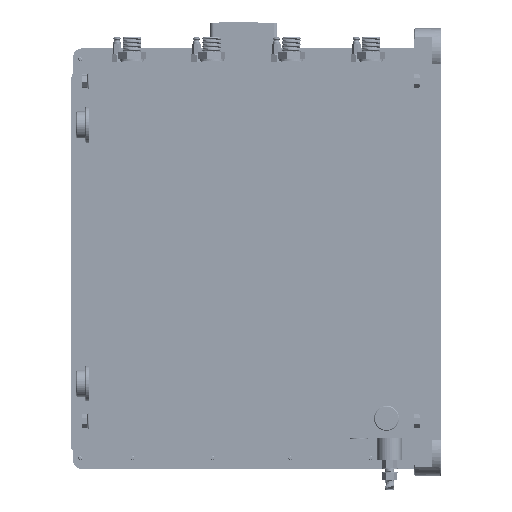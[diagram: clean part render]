
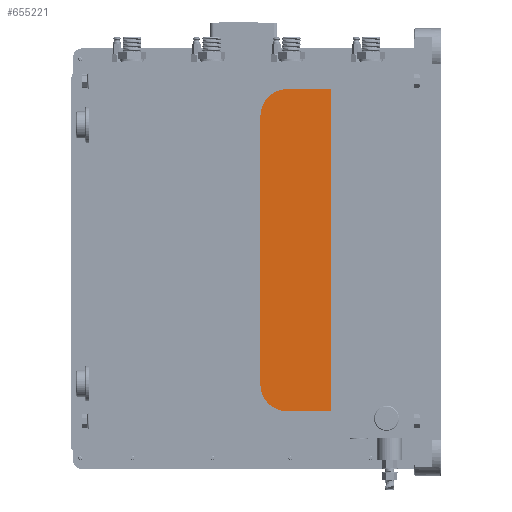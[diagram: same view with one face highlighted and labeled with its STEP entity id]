
A CAD part, left-side view. The second image highlights one B-rep face of the part: STEP entity #655221.
In plain terms, the highlighted planar face has unit normal (-1, 0, 0).
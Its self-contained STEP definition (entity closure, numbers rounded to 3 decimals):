
#11910 = CARTESIAN_POINT ( 'NONE',  ( -435.884, 181.509, 319.628 ) ) ;
#13284 = ORIENTED_EDGE ( 'NONE', *, *, #744334, .F. ) ;
#14060 = CARTESIAN_POINT ( 'NONE',  ( -435.884, 188.138, 331.988 ) ) ;
#17797 = VERTEX_POINT ( 'NONE', #55833 ) ;
#17975 = AXIS2_PLACEMENT_3D ( 'NONE', #628854, #281988, #26964 ) ;
#23563 = ORIENTED_EDGE ( 'NONE', *, *, #723036, .F. ) ;
#26964 = DIRECTION ( 'NONE',  ( 0., 0., -1. ) ) ;
#34613 = CARTESIAN_POINT ( 'NONE',  ( -435.884, 99.138, -68.012 ) ) ;
#52814 = EDGE_LOOP ( 'NONE', ( #13284, #465102 ) ) ;
#53659 = DIRECTION ( 'NONE',  ( 0., 0., -1. ) ) ;
#55833 = CARTESIAN_POINT ( 'NONE',  ( -435.884, 181.319, -62.372 ) ) ;
#71457 = CIRCLE ( 'NONE', #492240, 3.36 ) ;
#77330 = DIRECTION ( 'NONE',  ( 0., 1., 0. ) ) ;
#80146 = CARTESIAN_POINT ( 'NONE',  ( -435.884, 105.768, -59.012 ) ) ;
#82886 = EDGE_CURVE ( 'NONE', #538520, #425532, #653180, .T. ) ;
#83066 = DIRECTION ( 'NONE',  ( 0., 0., -1. ) ) ;
#84347 = CARTESIAN_POINT ( 'NONE',  ( -435.884, 99.138, 331.988 ) ) ;
#86164 = ORIENTED_EDGE ( 'NONE', *, *, #739285, .T. ) ;
#100020 = ORIENTED_EDGE ( 'NONE', *, *, #144486, .T. ) ;
#111624 = EDGE_CURVE ( 'NONE', #163369, #387337, #860310, .T. ) ;
#112736 = FACE_BOUND ( 'NONE', #285420, .T. ) ;
#120124 = AXIS2_PLACEMENT_3D ( 'NONE', #642585, #717223, #255847 ) ;
#134604 = DIRECTION ( 'NONE',  ( -1., 0., 0. ) ) ;
#139663 = CARTESIAN_POINT ( 'NONE',  ( -435.884, 188.138, 331.988 ) ) ;
#143548 = EDGE_LOOP ( 'NONE', ( #746113, #765687 ) ) ;
#144486 = EDGE_CURVE ( 'NONE', #387337, #780871, #759692, .T. ) ;
#158874 = AXIS2_PLACEMENT_3D ( 'NONE', #591661, #134604, #455508 ) ;
#163369 = VERTEX_POINT ( 'NONE', #14060 ) ;
#164994 = EDGE_LOOP ( 'NONE', ( #360058, #772300 ) ) ;
#177866 = CIRCLE ( 'NONE', #387909, 3.36 ) ;
#183416 = CARTESIAN_POINT ( 'NONE',  ( -435.884, 106.138, 326.348 ) ) ;
#184463 = ORIENTED_EDGE ( 'NONE', *, *, #111624, .T. ) ;
#185524 = CARTESIAN_POINT ( 'NONE',  ( -435.884, 181.509, 322.988 ) ) ;
#200758 = VERTEX_POINT ( 'NONE', #462129 ) ;
#243473 = EDGE_CURVE ( 'NONE', #276454, #575001, #677495, .T. ) ;
#248926 = PLANE ( 'NONE',  #832948 ) ;
#255847 = DIRECTION ( 'NONE',  ( 0., 0., -1. ) ) ;
#275685 = AXIS2_PLACEMENT_3D ( 'NONE', #697834, #495849, #83066 ) ;
#276454 = VERTEX_POINT ( 'NONE', #629487 ) ;
#281988 = DIRECTION ( 'NONE',  ( -1., 0., 0. ) ) ;
#284932 = EDGE_CURVE ( 'NONE', #200758, #288844, #691509, .T. ) ;
#285420 = EDGE_LOOP ( 'NONE', ( #388019, #23563 ) ) ;
#285613 = CARTESIAN_POINT ( 'NONE',  ( -435.884, 181.509, 326.348 ) ) ;
#288844 = VERTEX_POINT ( 'NONE', #451028 ) ;
#310446 = DIRECTION ( 'NONE',  ( 0., 0., -1. ) ) ;
#317272 = DIRECTION ( 'NONE',  ( -1., 0., 0. ) ) ;
#327774 = VECTOR ( 'NONE', #341665, 1000. ) ;
#338394 = DIRECTION ( 'NONE',  ( -1., 0., 0. ) ) ;
#341665 = DIRECTION ( 'NONE',  ( 0., 0., -1. ) ) ;
#348060 = DIRECTION ( 'NONE',  ( 0., 0., -1. ) ) ;
#359794 = DIRECTION ( 'NONE',  ( 0., -1., 0. ) ) ;
#360058 = ORIENTED_EDGE ( 'NONE', *, *, #82886, .F. ) ;
#387337 = VERTEX_POINT ( 'NONE', #505456 ) ;
#387909 = AXIS2_PLACEMENT_3D ( 'NONE', #80146, #598852, #348060 ) ;
#388019 = ORIENTED_EDGE ( 'NONE', *, *, #243473, .F. ) ;
#408652 = DIRECTION ( 'NONE',  ( 0., 0., -1. ) ) ;
#425532 = VERTEX_POINT ( 'NONE', #285613 ) ;
#428770 = CARTESIAN_POINT ( 'NONE',  ( -435.884, 181.319, -55.652 ) ) ;
#429970 = CIRCLE ( 'NONE', #275685, 3.36 ) ;
#450985 = FACE_BOUND ( 'NONE', #143548, .T. ) ;
#451028 = CARTESIAN_POINT ( 'NONE',  ( -435.884, 105.768, -62.372 ) ) ;
#453939 = CARTESIAN_POINT ( 'NONE',  ( -435.884, 99.138, 331.988 ) ) ;
#455306 = CARTESIAN_POINT ( 'NONE',  ( -435.884, 588.149, -68.012 ) ) ;
#455508 = DIRECTION ( 'NONE',  ( 0., 0., -1. ) ) ;
#462129 = CARTESIAN_POINT ( 'NONE',  ( -435.884, 105.768, -55.652 ) ) ;
#465102 = ORIENTED_EDGE ( 'NONE', *, *, #284932, .F. ) ;
#466178 = DIRECTION ( 'NONE',  ( -1., 0., 0. ) ) ;
#466828 = AXIS2_PLACEMENT_3D ( 'NONE', #185524, #317272, #53659 ) ;
#480561 = CIRCLE ( 'NONE', #466828, 3.36 ) ;
#492240 = AXIS2_PLACEMENT_3D ( 'NONE', #729565, #338394, #408652 ) ;
#495849 = DIRECTION ( 'NONE',  ( -1., 0., 0. ) ) ;
#505456 = CARTESIAN_POINT ( 'NONE',  ( -435.884, 188.138, -68.012 ) ) ;
#517978 = EDGE_LOOP ( 'NONE', ( #184463, #100020, #86164, #529029 ) ) ;
#525519 = FACE_BOUND ( 'NONE', #164994, .T. ) ;
#529029 = ORIENTED_EDGE ( 'NONE', *, *, #767869, .T. ) ;
#534431 = CARTESIAN_POINT ( 'NONE',  ( -435.884, 99.138, 331.988 ) ) ;
#538520 = VERTEX_POINT ( 'NONE', #11910 ) ;
#538552 = VECTOR ( 'NONE', #677536, 1000. ) ;
#543214 = VERTEX_POINT ( 'NONE', #428770 ) ;
#575001 = VERTEX_POINT ( 'NONE', #183416 ) ;
#591661 = CARTESIAN_POINT ( 'NONE',  ( -435.884, 106.138, 322.988 ) ) ;
#598852 = DIRECTION ( 'NONE',  ( -1., 0., 0. ) ) ;
#602327 = CIRCLE ( 'NONE', #713897, 3.36 ) ;
#628854 = CARTESIAN_POINT ( 'NONE',  ( -435.884, 105.768, -59.012 ) ) ;
#629487 = CARTESIAN_POINT ( 'NONE',  ( -435.884, 106.138, 319.628 ) ) ;
#642585 = CARTESIAN_POINT ( 'NONE',  ( -435.884, 181.509, 322.988 ) ) ;
#644325 = FACE_OUTER_BOUND ( 'NONE', #517978, .T. ) ;
#653180 = CIRCLE ( 'NONE', #120124, 3.36 ) ;
#655221 = ADVANCED_FACE ( 'NONE', ( #450985, #657303, #525519, #112736, #644325 ), #248926, .T. ) ;
#657303 = FACE_BOUND ( 'NONE', #52814, .T. ) ;
#659513 = CARTESIAN_POINT ( 'NONE',  ( -435.884, 106.138, 322.988 ) ) ;
#674841 = LINE ( 'NONE', #534431, #838761 ) ;
#677495 = CIRCLE ( 'NONE', #158874, 3.36 ) ;
#677536 = DIRECTION ( 'NONE',  ( 0., 0., 1. ) ) ;
#690576 = VERTEX_POINT ( 'NONE', #453939 ) ;
#691509 = CIRCLE ( 'NONE', #17975, 3.36 ) ;
#697834 = CARTESIAN_POINT ( 'NONE',  ( -435.884, 181.319, -59.012 ) ) ;
#713897 = AXIS2_PLACEMENT_3D ( 'NONE', #659513, #466178, #729756 ) ;
#717223 = DIRECTION ( 'NONE',  ( -1., 0., 0. ) ) ;
#723036 = EDGE_CURVE ( 'NONE', #575001, #276454, #602327, .T. ) ;
#723241 = DIRECTION ( 'NONE',  ( -1., 0., 0. ) ) ;
#729565 = CARTESIAN_POINT ( 'NONE',  ( -435.884, 181.319, -59.012 ) ) ;
#729756 = DIRECTION ( 'NONE',  ( 0., 0., -1. ) ) ;
#739162 = LINE ( 'NONE', #84347, #538552 ) ;
#739285 = EDGE_CURVE ( 'NONE', #780871, #690576, #739162, .T. ) ;
#744334 = EDGE_CURVE ( 'NONE', #288844, #200758, #177866, .T. ) ;
#746113 = ORIENTED_EDGE ( 'NONE', *, *, #765381, .F. ) ;
#759692 = LINE ( 'NONE', #34613, #842708 ) ;
#765381 = EDGE_CURVE ( 'NONE', #17797, #543214, #429970, .T. ) ;
#765687 = ORIENTED_EDGE ( 'NONE', *, *, #846069, .F. ) ;
#767869 = EDGE_CURVE ( 'NONE', #690576, #163369, #674841, .T. ) ;
#772300 = ORIENTED_EDGE ( 'NONE', *, *, #798784, .F. ) ;
#780871 = VERTEX_POINT ( 'NONE', #868980 ) ;
#798784 = EDGE_CURVE ( 'NONE', #425532, #538520, #480561, .T. ) ;
#832948 = AXIS2_PLACEMENT_3D ( 'NONE', #455306, #723241, #310446 ) ;
#838761 = VECTOR ( 'NONE', #77330, 1000. ) ;
#842708 = VECTOR ( 'NONE', #359794, 1000. ) ;
#846069 = EDGE_CURVE ( 'NONE', #543214, #17797, #71457, .T. ) ;
#860310 = LINE ( 'NONE', #139663, #327774 ) ;
#868980 = CARTESIAN_POINT ( 'NONE',  ( -435.884, 99.138, -68.012 ) ) ;
